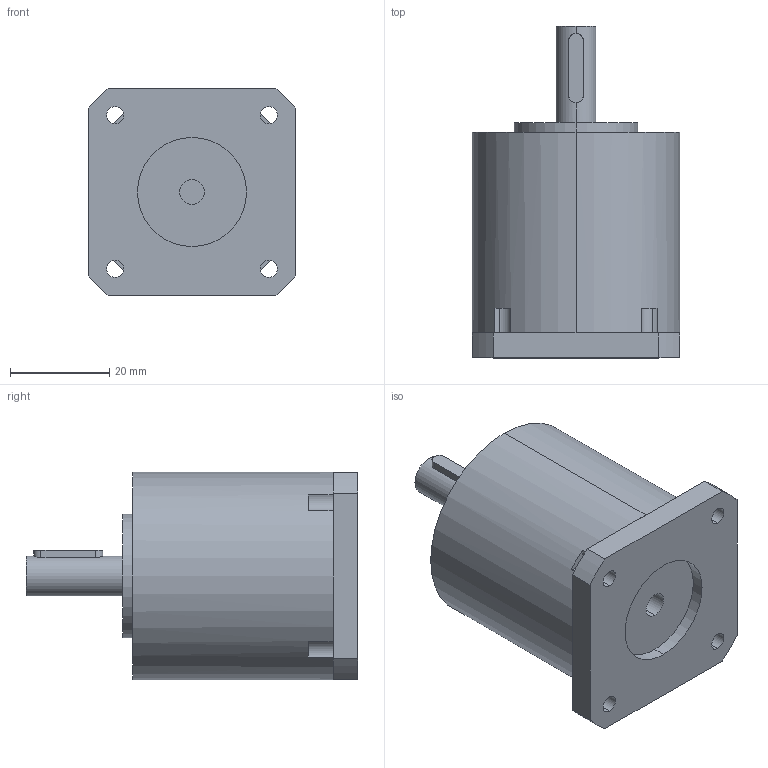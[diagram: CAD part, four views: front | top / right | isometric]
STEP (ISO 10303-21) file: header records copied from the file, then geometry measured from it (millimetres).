
FILE_DESCRIPTION (( 'STEP AP214' ), '1' );
FILE_NAME ('42PLF熬厒儂等撰.STEP', '2021-02-22T09:00:53', ( 'wimxt.com' ), ( 'wimxt.com' ), 'SwSTEP 2.0', 'SolidWorks 2014', '' );
FILE_SCHEMA (( 'AUTOMOTIVE_DESIGN' ));
Length unit declared in the file: millimetre
Products named in the file (1): 42PLF熬厒儂等撰
Bounding box: 42 x 67 x 42 mm (x, y, z)
Volume: 65063.7 mm3; surface area: 11162.8 mm2
Topology: 1 solids, 1 shells, 67 faces, 169 edges, 104 vertices
Faces by surface type: cylinder 38, plane 21, cone 8
Entity records: 2073 total; most frequent: CARTESIAN_POINT 385, DIRECTION 377, ORIENTED_EDGE 322, EDGE_CURVE 161, AXIS2_PLACEMENT_3D 152, VERTEX_POINT 104, CIRCLE 84, EDGE_LOOP 83
